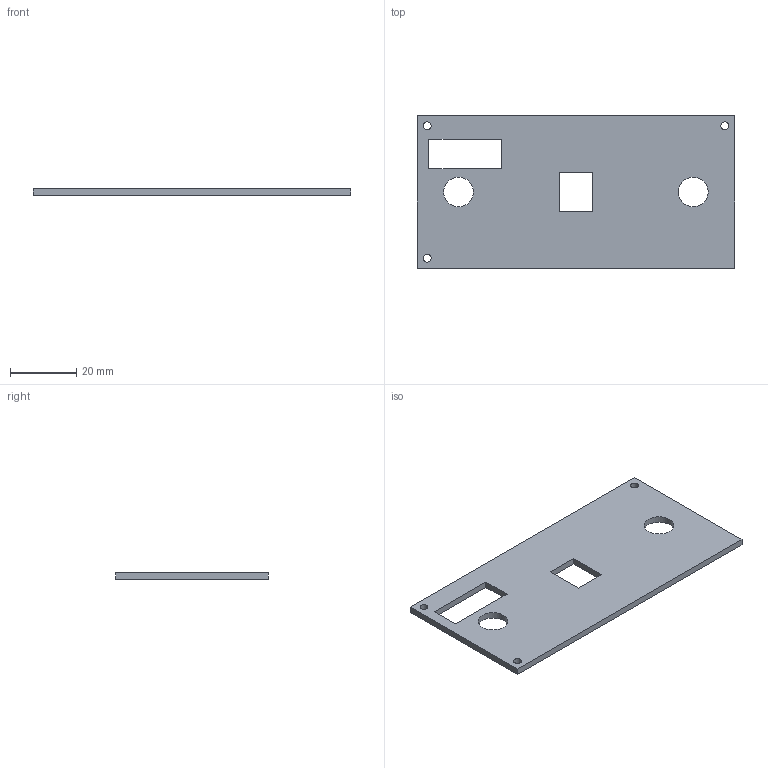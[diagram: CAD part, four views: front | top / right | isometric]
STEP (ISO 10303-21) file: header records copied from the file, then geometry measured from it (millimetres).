
FILE_DESCRIPTION(('Open CASCADE Model'),'2;1');
FILE_NAME('Open CASCADE Shape Model','2026-10-02T07:52:38',('Author'),( 'Open CASCADE'),'Open CASCADE STEP processor 7.8','Open CASCADE 7.8' ,'Unknown');
FILE_SCHEMA(('AUTOMOTIVE_DESIGN { 1 0 10303 214 1 1 1 1 }'));
Length unit declared in the file: millimetre
Products named in the file (1): Open CASCADE STEP translator 7.8 8
Bounding box: 96 x 46 x 2 mm (x, y, z)
Volume: 7914.4 mm3; surface area: 8852.7 mm2
Topology: 1 solids, 1 shells, 19 faces, 51 edges, 34 vertices
Faces by surface type: plane 14, cylinder 5
Full cylindrical faces by diameter (mm): 2.4 x3, 9 x2
Entity records: 1264 total; most frequent: CARTESIAN_POINT 239, DIRECTION 171, ORIENTED_EDGE 102, PCURVE 102, DEFINITIONAL_REPRESENTATION 102, LINE 101, VECTOR 101, EDGE_CURVE 51
